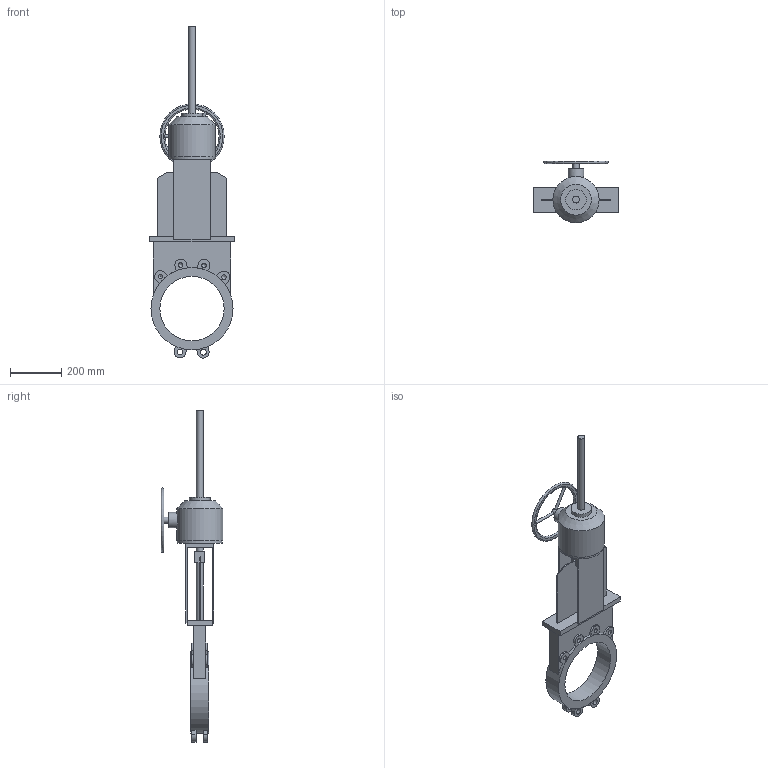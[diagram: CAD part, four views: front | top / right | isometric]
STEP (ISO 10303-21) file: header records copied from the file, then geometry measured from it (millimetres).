
FILE_DESCRIPTION(('STEP AP203'), '1');
FILE_NAME('Çàäâèæêà øèáåðíàÿ K51GV DN250 ðåäóêòîð+âûäâèæíîé øïèíäåëü', '', ('UNSPECIFIED'), ('UNSPECIFIED'), 'ASCON STEP Converter 1.6', 'ASCON Math Kernel', '');
FILE_SCHEMA(('CONFIG_CONTROL_DESIGN'));
Length unit declared in the file: millimetre
Bounding box: 330 x 240 x 1289.84 mm (x, y, z)
Volume: 10464360.2 mm3; surface area: 903914 mm2
Topology: 1 solids, 1 shells, 145 faces, 381 edges, 243 vertices
Faces by surface type: plane 94, cylinder 38, cone 9, torus 4
Full cylindrical faces by diameter (mm): 10 x3, 17.294 x8, 23 x4, 24 x1, 26 x2, 60 x1, 80 x1, 175 x1, 180 x1, 250 x1, 319 x1
Entity records: 6687 total; most frequent: CARTESIAN_POINT 1996, DIRECTION 734, ORIENTED_EDGE 676, EDGE_CURVE 338, AXIS2_PLACEMENT_3D 263, VERTEX_POINT 235, LINE 208, VECTOR 208
